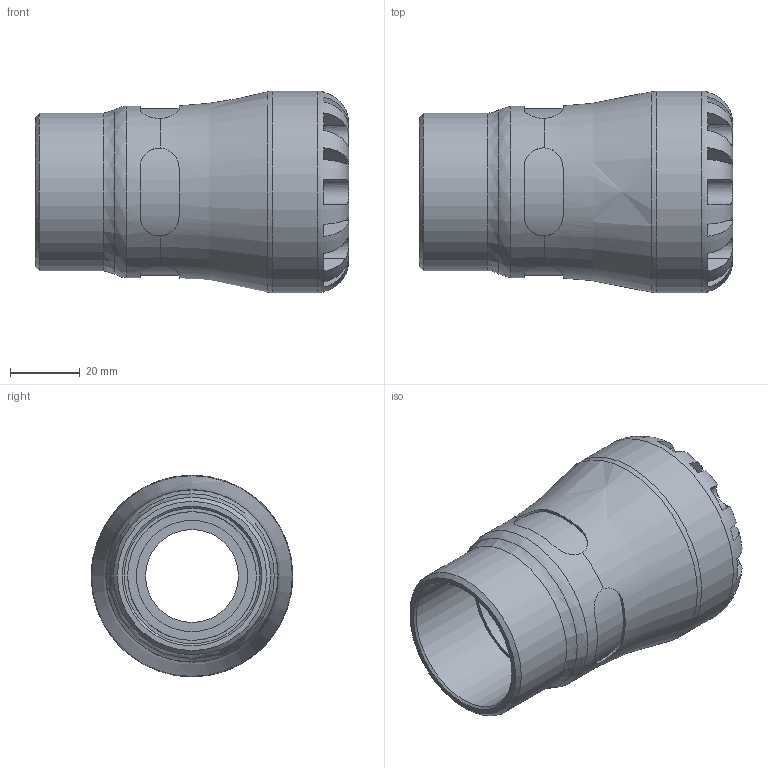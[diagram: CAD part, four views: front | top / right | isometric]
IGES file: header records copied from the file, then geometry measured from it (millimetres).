
Global section: file name: 100300032013_190300032013.ipt; native system: Autodesk Inventor 2015; preprocessor: unknown; author: KIM; date: 20170122.094948; units: millimetre
Bounding box: 90 x 58 x 58 mm (x, y, z)
Volume: 99475.8 mm3; surface area: 28195.1 mm2
Topology: 1 solids, 1 shells, 106 faces, 282 edges, 182 vertices
Faces by surface type: plane 62, revolution 28, cylinder 15, cone 1
Full cylindrical faces by diameter (mm): 45.24 x1, 49.3 x1, 58 x1
